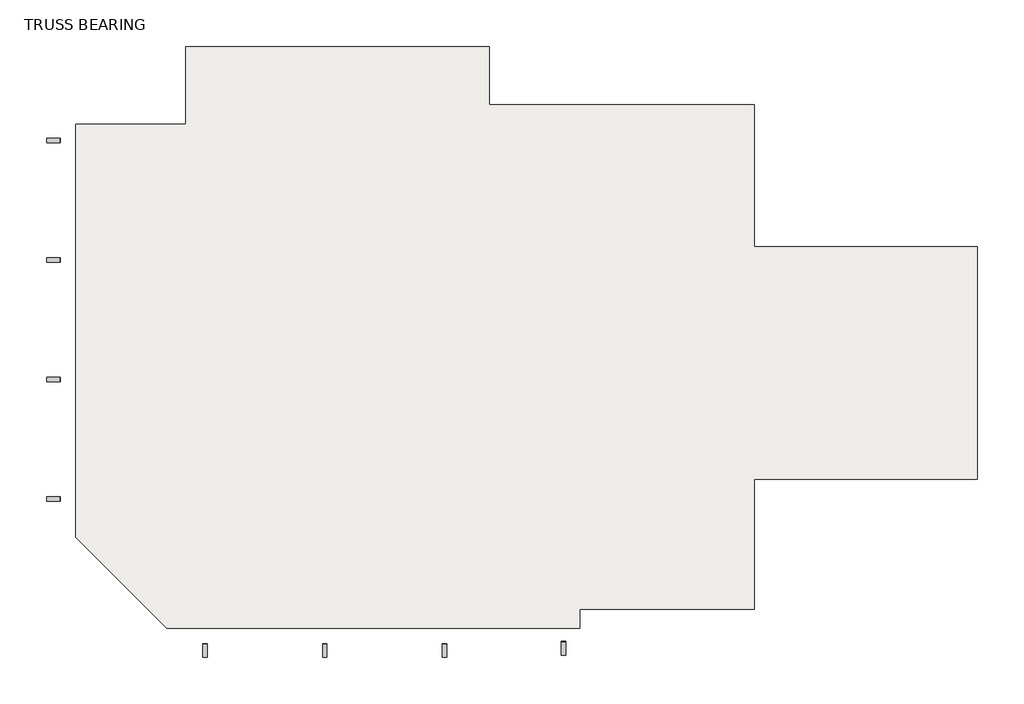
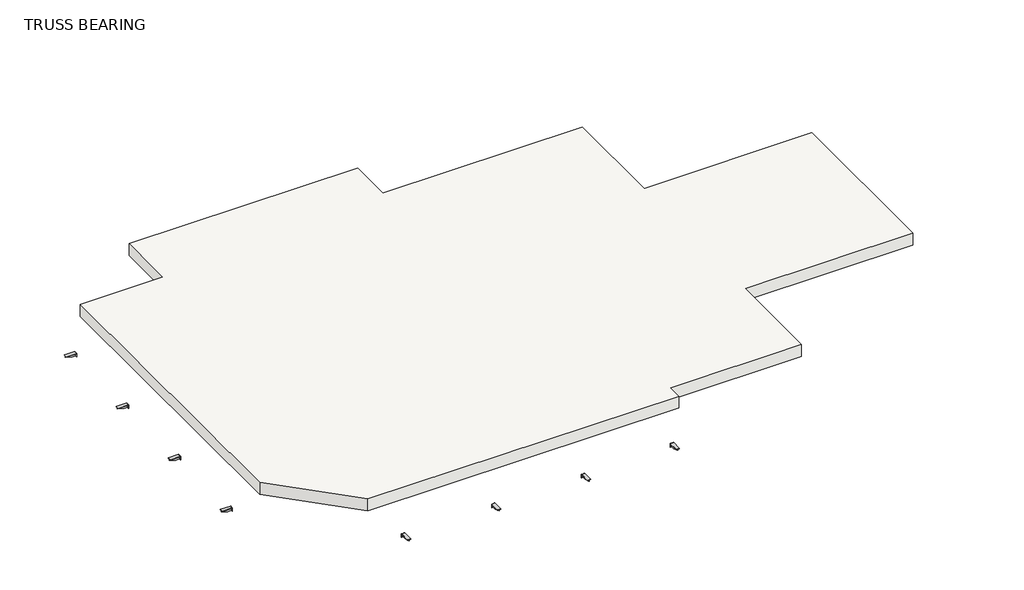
# One storey: 8 proxies, 1 roof.
"""IFC4 building model written with IfcOpenShell, lengths in millimetres."""

import ifcopenshell
import ifcopenshell.guid

model = None  # the IFC model being written
_history = None  # IfcOwnerHistory: only IFC2X3 demands one
_inside = {}  # id of a spatial element -> (the spatial element, [elements in it])
_under = {}  # id of a project, library or spatial element -> (it, [spatial elements below it])
_declared = {}  # id of a project -> (the project, [libraries it declares])
_typed = {}  # id of a type object -> (the type object, [elements of that type])
_made_of = {}  # id of a material, layer set ... -> (it, [elements and type objects made of it])


def new_model(schema):
    """Start an empty IFC model of exactly this schema.

    Asked for "IFC4X3", IfcOpenShell would pick the latest addendum, in which some entities
    have other attributes; the version numbers below select the first issue.
    IFC2X3 requires an IfcOwnerHistory on every rooted entity: one is made here for all.
    """
    global model, _history
    if schema == "IFC4X3":
        model = ifcopenshell.file(schema_version=(4, 3, 0, 0))
    else:
        model = ifcopenshell.file(schema=schema)
    _inside.clear()
    _under.clear()
    _declared.clear()
    _typed.clear()
    _made_of.clear()
    _history = None
    if model.schema == "IFC2X3":
        org = make("IfcOrganization", Name="unknown")
        user = make(
            "IfcPersonAndOrganization",
            ThePerson=make("IfcPerson", FamilyName="unknown"),
            TheOrganization=org,
        )
        app = make(
            "IfcApplication",
            ApplicationDeveloper=org,
            Version="unknown",
            ApplicationFullName="unknown",
            ApplicationIdentifier="unknown",
        )
        _history = make(
            "IfcOwnerHistory",
            OwningUser=user,
            OwningApplication=app,
            ChangeAction="ADDED",
            CreationDate=0,
        )
    return model


def make(cls, **values):
    """One entity of the class cls with the attributes given. An attribute that is None is left unset."""
    return model.create_entity(
        cls, **{name: value for name, value in values.items() if value is not None}
    )


def rooted(cls, **values):
    """An entity with a GlobalId (a new one), such as an element, a storey or a relation."""
    return make(cls, GlobalId=ifcopenshell.guid.new(), OwnerHistory=_history, **values)


def si_unit(unit_type, name, prefix=None):
    """IfcSIUnit, for example si_unit("LENGTHUNIT", "METRE", prefix="MILLI")."""
    return make("IfcSIUnit", UnitType=unit_type, Prefix=prefix, Name=name)


def assignment(units):
    """IfcUnitAssignment: the units of a project."""
    return None if units is None else make("IfcUnitAssignment", Units=units)


def point(xyz):
    """IfcCartesianPoint."""
    return None if xyz is None else make("IfcCartesianPoint", Coordinates=xyz)


def direction(xyz):
    """IfcDirection."""
    return None if xyz is None else make("IfcDirection", DirectionRatios=xyz)


def frame(location, z_axis=None, x_axis=None):
    """IfcAxis2Placement3D, a coordinate frame: its origin and axes. An axis left out is left unset."""
    return make(
        "IfcAxis2Placement3D",
        Location=point(location),
        Axis=direction(z_axis),
        RefDirection=direction(x_axis),
    )


def origin():
    """The frame at (0, 0, 0) with its axes left unset."""
    return frame((0.0, 0.0, 0.0))


def place(relative_to, where):
    """IfcLocalPlacement: puts the frame where relative to a parent placement (None: the world)."""
    return make(
        "IfcLocalPlacement", PlacementRelTo=relative_to, RelativePlacement=where
    )


def context(
    kind, dimensions, precision=None, world=None, true_north=None, identifier=None
):
    """IfcGeometricRepresentationContext, for example the 3D "Model" context."""
    return make(
        "IfcGeometricRepresentationContext",
        ContextIdentifier=identifier,
        ContextType=kind,
        CoordinateSpaceDimension=dimensions,
        Precision=precision,
        WorldCoordinateSystem=world,
        TrueNorth=true_north,
    )


def project(units=None, contexts=None):
    """IfcProject with its units and contexts."""
    return rooted(
        "IfcProject",
        Name="project",
        RepresentationContexts=contexts,
        UnitsInContext=assignment(units),
    )


def spatial(cls, under=None, at=None, **own):
    """A site, building, storey or space (cls), placed at a placement, below another one or the project."""
    s = rooted(cls, ObjectPlacement=at, **own)
    if under is not None:
        _under.setdefault(under.id(), (under, []))[1].append(s)
    return s


def polyline(points):
    """IfcPolyline through the points."""
    return make("IfcPolyline", Points=[point(p) for p in points])


def outline(outer, holes=None, kind="AREA"):
    """IfcArbitraryClosedProfileDef: a profile drawn as a closed curve; with holes, ...WithVoids."""
    if holes is None:
        return make("IfcArbitraryClosedProfileDef", ProfileType=kind, OuterCurve=outer)
    return make(
        "IfcArbitraryProfileDefWithVoids",
        ProfileType=kind,
        OuterCurve=outer,
        InnerCurves=holes,
    )


def extrude(swept, where, along, depth):
    """IfcExtrudedAreaSolid: the profile swept, set in the frame where, extruded along a direction by depth."""
    return make(
        "IfcExtrudedAreaSolid",
        SweptArea=swept,
        Position=where,
        ExtrudedDirection=direction(along),
        Depth=depth,
    )


def shape(context_of_items, identifier, shape_type, items):
    """IfcShapeRepresentation: the items that make up one representation, for example the "Body"."""
    return make(
        "IfcShapeRepresentation",
        ContextOfItems=context_of_items,
        RepresentationIdentifier=identifier,
        RepresentationType=shape_type,
        Items=items,
    )


def source(mapping_origin, context_of_items, identifier, shape_type, items):
    """IfcRepresentationMap: a shape defined once, which mapped items show again and again."""
    return make(
        "IfcRepresentationMap",
        MappingOrigin=mapping_origin,
        MappedRepresentation=shape(context_of_items, identifier, shape_type, items),
    )


def transform(
    local_origin,
    x_axis=None,
    y_axis=None,
    z_axis=None,
    scale=None,
    scale2=None,
    scale3=None,
    uniform=True,
):
    """IfcCartesianTransformationOperator3D, or its non-uniform kind. x_axis, y_axis, z_axis: its Axis1, 2, 3."""
    if uniform:
        return make(
            "IfcCartesianTransformationOperator3D",
            Axis1=direction(x_axis),
            Axis2=direction(y_axis),
            LocalOrigin=point(local_origin),
            Scale=scale,
            Axis3=direction(z_axis),
        )
    return make(
        "IfcCartesianTransformationOperator3DnonUniform",
        Axis1=direction(x_axis),
        Axis2=direction(y_axis),
        LocalOrigin=point(local_origin),
        Scale=scale,
        Axis3=direction(z_axis),
        Scale2=scale2,
        Scale3=scale3,
    )


def mapped(mapping_source, mapping_target):
    """IfcMappedItem: shows the shape of a source again, moved by a transform."""
    return make(
        "IfcMappedItem", MappingSource=mapping_source, MappingTarget=mapping_target
    )


def made_of(thing, what):
    """Note that an element or type object is made of a material, layer set ...; save() writes the relation."""
    if what is not None:
        _made_of.setdefault(what.id(), (what, []))[1].append(thing)
    return thing


def element(
    cls,
    number,
    at=None,
    inside=None,
    cuts=None,
    type_object=None,
    material=None,
    context=None,
    identifier="Body",
    shape_type=None,
    held_by="IfcProductDefinitionShape",
    body=None,
    shapes=None,
    **own,
):
    """One element of the class cls, such as IfcWall. Its Tag is "e" and its number.

    at: its placement. inside: the storey or other place that contains it. cuts: it is an
    opening in that element (IfcRelVoidsElement). A single representation is given by context,
    identifier, shape_type and body (its items); several are given by shapes. held_by: the class
    of the entity that holds the representations. save() writes the other relations.
    """
    e = rooted(cls, Tag="e%d" % number, ObjectPlacement=at, **own)
    if body is not None:
        shapes = [shape(context, identifier, shape_type, body)]
    if shapes is not None:
        e.Representation = make(held_by, Representations=shapes)
    if inside is not None:
        _inside.setdefault(inside.id(), (inside, []))[1].append(e)
    if cuts is not None:
        rooted(
            "IfcRelVoidsElement", RelatingBuildingElement=cuts, RelatedOpeningElement=e
        )
    if type_object is not None:
        _typed.setdefault(type_object.id(), (type_object, []))[1].append(e)
    return made_of(e, material)


def aggregate(whole, parts):
    """IfcRelAggregates: a whole, such as a stair, and the parts it consists of."""
    return rooted("IfcRelAggregates", RelatingObject=whole, RelatedObjects=parts)


def save(model, path):
    """Write the relations noted so far, then the file.

    IfcRelAggregates (storeys below a building ...), IfcRelContainedInSpatialStructure (elements
    in a storey), IfcRelDefinesByType, IfcRelAssociatesMaterial and IfcRelDeclares: one each for
    every whole, place, type object, material and project.
    """
    for whole, parts in _under.values():
        aggregate(whole, parts)
    for where, things in _inside.values():
        rooted(
            "IfcRelContainedInSpatialStructure",
            RelatedElements=things,
            RelatingStructure=where,
        )
    for kind, things in _typed.values():
        rooted("IfcRelDefinesByType", RelatedObjects=things, RelatingType=kind)
    for what, things in _made_of.values():
        rooted("IfcRelAssociatesMaterial", RelatedObjects=things, RelatingMaterial=what)
    for by, libraries in _declared.values():
        rooted("IfcRelDeclares", RelatingContext=by, RelatedDefinitions=libraries)
    model.write(path)


def roof_bracket_canopy_bracket_11f21d39(model_context):
    return source(origin(), model_context, "Body", "SweptSolid", [
        extrude(outline(polyline([(69.2782424, -2371.725), (-70.4217576, -2371.725), (-70.4217576, -2365.375), (69.2782424, -2365.375), (69.2782424, -2371.725)])), frame((0.0, 0.0, 3200.4), z_axis=(0.0, 0.0, 1.0), x_axis=(1.0, 0.0, 0.0)), (0.0, 0.0, 1.0), 152.4),
        extrude(outline(polyline([(-1940.5509897, 3336.925), (-1940.5509897, 3286.2721139), (-2219.325, 3200.4), (-2365.375, 3200.4), (-2365.375, 3336.925), (-1940.5509897, 3336.925)])), frame((-4.7625, 0.0, 0.0), z_axis=(1.0, 0.0, 0.0), x_axis=(0.0, 1.0, 0.0)), (0.0, 0.0, 1.0), 9.525),
        extrude(outline(polyline([(-70.4217576, -1940.5509897), (69.2782424, -1940.5509897), (69.2782424, -2365.375), (-70.4217576, -2365.375), (-70.4217576, -1940.5509897)])), frame((0.0, 0.0, 3336.925), z_axis=(0.0, 0.0, 1.0), x_axis=(1.0, 0.0, 0.0)), (0.0, 0.0, 1.0), 15.875),
    ])


model = new_model("IFC4")

# Units and contexts
model_context = context("Model", 3, world=origin())
ifc_project = project(units=[si_unit("LENGTHUNIT", "METRE", prefix="MILLI")], contexts=[model_context])

# Site, building, storey
site = spatial("IfcSite", under=ifc_project)
building = spatial("IfcBuilding", under=site)
storey = spatial("IfcBuildingStorey", under=building, Name="TRUSS BEARING", Elevation=38557.2)

# Proxies
placement = place(None, origin())
roof_bracket_canopy_bracket_shape = roof_bracket_canopy_bracket_11f21d39(model_context)
element("IfcBuildingElementProxy", 1, Name="Roof Bracket : Canopy Bracket", ObjectType="Roof Bracket : Canopy Bracket", at=placement, inside=storey, context=model_context, shape_type="MappedRepresentation", body=[
    mapped(roof_bracket_canopy_bracket_shape, transform((-12455.635253, -8807.3239595, 33680.4), x_axis=(-1.0, 0.0, 0.0), y_axis=(0.0, -1.0, 0.0), z_axis=(0.0, 0.0, 1.0))),
])
element("IfcBuildingElementProxy", 2, Name="Roof Bracket : Canopy Bracket", ObjectType="Roof Bracket : Canopy Bracket", at=placement, inside=storey, context=model_context, shape_type="MappedRepresentation", body=[
    mapped(roof_bracket_canopy_bracket_shape, transform((-8690.085253, -8807.3239595, 33680.4), x_axis=(-1.0, 0.0, 0.0), y_axis=(0.0, -1.0, 0.0), z_axis=(0.0, 0.0, 1.0))),
])
element("IfcBuildingElementProxy", 3, Name="Roof Bracket : Canopy Bracket", ObjectType="Roof Bracket : Canopy Bracket", at=placement, inside=storey, context=model_context, shape_type="MappedRepresentation", body=[
    mapped(roof_bracket_canopy_bracket_shape, transform((-4930.885253, -8807.3239595, 33680.4), x_axis=(-1.0, 0.0, 0.0), y_axis=(0.0, -1.0, 0.0), z_axis=(0.0, 0.0, 1.0))),
])
element("IfcBuildingElementProxy", 4, Name="Roof Bracket : Canopy Bracket", ObjectType="Roof Bracket : Canopy Bracket", at=placement, inside=storey, context=model_context, shape_type="MappedRepresentation", body=[
    mapped(roof_bracket_canopy_bracket_shape, transform((-1184.0945219, -8731.1239595, 33680.4), x_axis=(-1.0, 0.0, 0.0), y_axis=(0.0, -1.0, 0.0), z_axis=(0.0, 0.0, 1.0))),
])
element("IfcBuildingElementProxy", 5, Name="Roof Bracket : Canopy Bracket", ObjectType="Roof Bracket : Canopy Bracket", at=placement, inside=storey, context=model_context, shape_type="MappedRepresentation", body=[
    mapped(roof_bracket_canopy_bracket_shape, transform((-19374.5862427, -1888.9989595, 33680.4), x_axis=(0.0, 1.0, 0.0), y_axis=(-1.0, 0.0, 0.0), z_axis=(0.0, 0.0, 1.0))),
])
element("IfcBuildingElementProxy", 6, Name="Roof Bracket : Canopy Bracket", ObjectType="Roof Bracket : Canopy Bracket", at=placement, inside=storey, context=model_context, shape_type="MappedRepresentation", body=[
    mapped(roof_bracket_canopy_bracket_shape, transform((-19374.5862427, 1870.2010405, 33680.4), x_axis=(0.0, 1.0, 0.0), y_axis=(-1.0, 0.0, 0.0), z_axis=(0.0, 0.0, 1.0))),
])
element("IfcBuildingElementProxy", 7, Name="Roof Bracket : Canopy Bracket", ObjectType="Roof Bracket : Canopy Bracket", at=placement, inside=storey, context=model_context, shape_type="MappedRepresentation", body=[
    mapped(roof_bracket_canopy_bracket_shape, transform((-19374.5862427, 5629.4010405, 33680.4), x_axis=(0.0, 1.0, 0.0), y_axis=(-1.0, 0.0, 0.0), z_axis=(0.0, 0.0, 1.0))),
])
element("IfcBuildingElementProxy", 8, Name="Roof Bracket : Canopy Bracket", ObjectType="Roof Bracket : Canopy Bracket", at=placement, inside=storey, context=model_context, shape_type="MappedRepresentation", body=[
    mapped(roof_bracket_canopy_bracket_shape, transform((-19374.5862427, 9388.6010405, 33680.4), x_axis=(0.0, 1.0, 0.0), y_axis=(-1.0, 0.0, 0.0), z_axis=(0.0, 0.0, 1.0))),
])

# Roof
element("IfcRoof", 9, ObjectType="Steel Truss - Insulation on Metal Deck - EPDM", at=placement, inside=storey, context=model_context, shape_type="SweptSolid", body=[
    extrude(outline(polyline([(-16519.635253, 9896.6010405), (-13065.235253, 9896.6010405), (-13065.235253, 12335.0010405), (-3514.835253, 12335.0010405), (-3514.835253, 10506.2010405), (4816.364747, 10506.2010405), (4816.364747, 6035.8010405), (11826.764747, 6035.8010405), (11826.764747, -1269.0461899), (4816.364747, -1269.0461899), (4816.364747, -5346.5739595), (-666.860253, -5346.5739595), (-666.860253, -5952.9989595), (-13650.1829592, -5952.9989595), (-16519.635253, -3083.5466657), (-16519.635253, 9896.6010405)])), frame((0.0, 0.0, 38150.8), z_axis=(0.0, 0.0, 1.0), x_axis=(1.0, 0.0, 0.0)), (0.0, 0.0, 1.0), 527.05),
])

save(model, "model.ifc")
